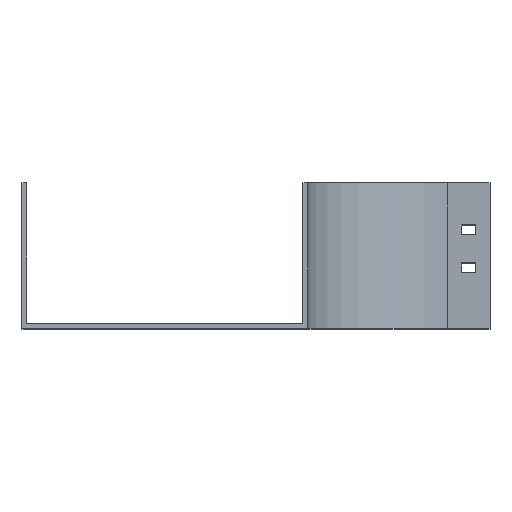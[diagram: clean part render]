
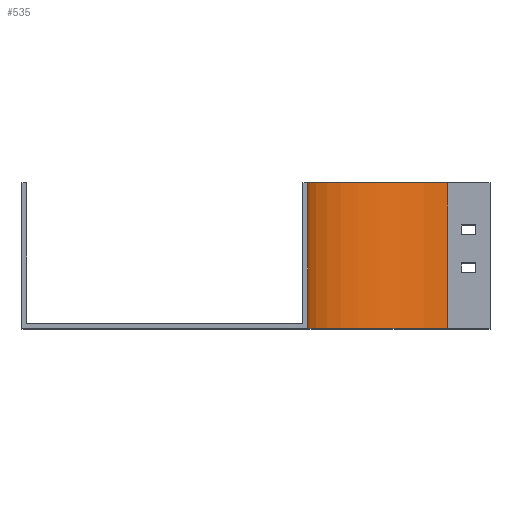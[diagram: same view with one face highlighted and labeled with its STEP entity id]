
A CAD part, top view. The second image highlights one B-rep face of the part: STEP entity #535.
In plain terms, the highlighted cylindrical face has radius 100 mm (diameter 200 mm), a partial arc.
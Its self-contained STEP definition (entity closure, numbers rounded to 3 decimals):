
#86 = VERTEX_POINT ( 'NONE', #448 ) ;
#165 = DIRECTION ( 'NONE',  ( 0., 0., -1. ) ) ;
#224 = VERTEX_POINT ( 'NONE', #1564 ) ;
#252 = CARTESIAN_POINT ( 'NONE',  ( 0., 0., -100. ) ) ;
#286 = EDGE_CURVE ( 'NONE', #534, #86, #2710, .T. ) ;
#448 = CARTESIAN_POINT ( 'NONE',  ( 0., 104., -100. ) ) ;
#534 = VERTEX_POINT ( 'NONE', #708 ) ;
#535 = ADVANCED_FACE ( 'NONE', ( #2408 ), #1017, .F. ) ;
#575 = ORIENTED_EDGE ( 'NONE', *, *, #1594, .T. ) ;
#623 = DIRECTION ( 'NONE',  ( 0., 0., -1. ) ) ;
#676 = AXIS2_PLACEMENT_3D ( 'NONE', #2256, #2478, #1209 ) ;
#708 = CARTESIAN_POINT ( 'NONE',  ( -100., 104., 0. ) ) ;
#841 = VECTOR ( 'NONE', #1720, 1000. ) ;
#1000 = EDGE_CURVE ( 'NONE', #86, #1527, #2344, .T. ) ;
#1013 = CARTESIAN_POINT ( 'NONE',  ( 0., 104., 0. ) ) ;
#1017 = CYLINDRICAL_SURFACE ( 'NONE', #1416, 100. ) ;
#1209 = DIRECTION ( 'NONE',  ( 0., 0., -1. ) ) ;
#1239 = ORIENTED_EDGE ( 'NONE', *, *, #1000, .F. ) ;
#1416 = AXIS2_PLACEMENT_3D ( 'NONE', #1866, #2311, #623 ) ;
#1527 = VERTEX_POINT ( 'NONE', #252 ) ;
#1564 = CARTESIAN_POINT ( 'NONE',  ( -100., 0., 0. ) ) ;
#1594 = EDGE_CURVE ( 'NONE', #224, #1527, #1886, .T. ) ;
#1702 = CARTESIAN_POINT ( 'NONE',  ( -100., 104., 0. ) ) ;
#1720 = DIRECTION ( 'NONE',  ( 0., -1., 0. ) ) ;
#1740 = ORIENTED_EDGE ( 'NONE', *, *, #2596, .T. ) ;
#1752 = EDGE_LOOP ( 'NONE', ( #575, #1239, #1983, #1740 ) ) ;
#1866 = CARTESIAN_POINT ( 'NONE',  ( 0., 104., 0. ) ) ;
#1886 = CIRCLE ( 'NONE', #676, 100. ) ;
#1934 = VECTOR ( 'NONE', #2138, 1000. ) ;
#1983 = ORIENTED_EDGE ( 'NONE', *, *, #286, .F. ) ;
#2058 = DIRECTION ( 'NONE',  ( 0., -1., 0. ) ) ;
#2138 = DIRECTION ( 'NONE',  ( 0., -1., 0. ) ) ;
#2148 = CARTESIAN_POINT ( 'NONE',  ( 0., 104., -100. ) ) ;
#2256 = CARTESIAN_POINT ( 'NONE',  ( 0., 0., 0. ) ) ;
#2311 = DIRECTION ( 'NONE',  ( 0., -1., 0. ) ) ;
#2344 = LINE ( 'NONE', #2148, #841 ) ;
#2408 = FACE_OUTER_BOUND ( 'NONE', #1752, .T. ) ;
#2478 = DIRECTION ( 'NONE',  ( 0., -1., 0. ) ) ;
#2574 = AXIS2_PLACEMENT_3D ( 'NONE', #1013, #2058, #165 ) ;
#2596 = EDGE_CURVE ( 'NONE', #534, #224, #2752, .T. ) ;
#2710 = CIRCLE ( 'NONE', #2574, 100. ) ;
#2752 = LINE ( 'NONE', #1702, #1934 ) ;
